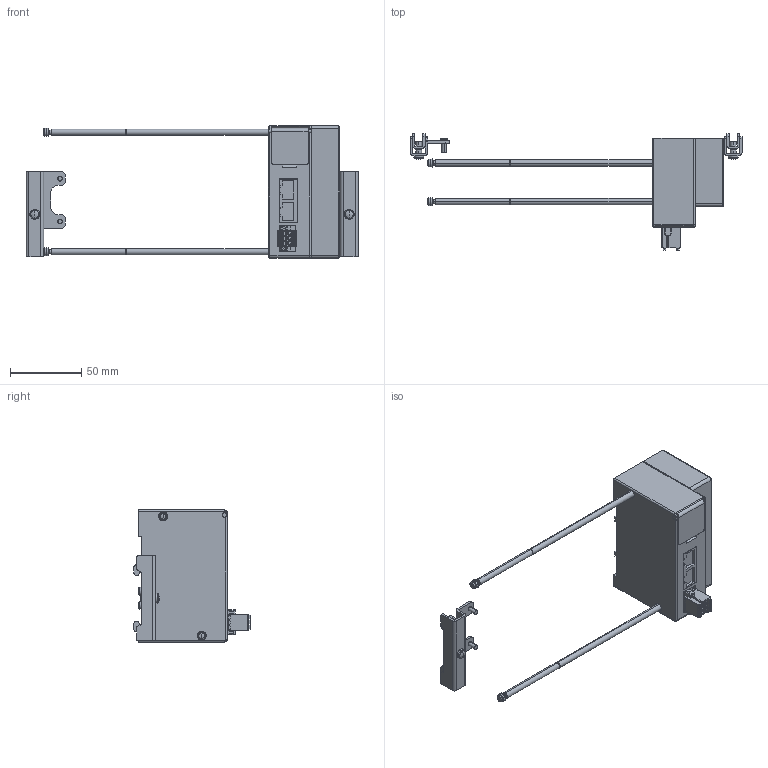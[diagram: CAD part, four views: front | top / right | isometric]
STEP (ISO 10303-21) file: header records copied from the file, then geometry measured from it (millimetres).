
FILE_DESCRIPTION( (''), '2;1');
FILE_NAME ('YS8EK3-7-DN.stp','2022-12-01T14:39:56',(''),(''),'spGate 12.6.6','','');
FILE_SCHEMA (('AUTOMOTIVE_DESIGN'));
Length unit declared in the file: millimetre
Products named in the file (3): Assembly; YS8EK3-7-DN-prt0; YS8EK3-7-DN-prt1
Assembly tree (3 placements, depth 2):
  Assembly
    YS8EK3-7-DN-prt0
    YS8EK3-7-DN-prt1  x2
Bounding box: 233.5 x 82.1 x 93 mm (x, y, z)
Volume: 268592.5 mm3; surface area: 49507.6 mm2
Topology: 3 solids, 3 shells, 983 faces, 2565 edges, 1641 vertices
Faces by surface type: plane 563, cylinder 314, bspline 90, sphere 16
Entity records: 44494 total; most frequent: CARTESIAN_POINT 6157, ORIENTED_EDGE 4408, DIRECTION 4156, COLOUR_RGB 3058, PRESENTATION_STYLE_ASSIGNMENT 3058, STYLED_ITEM 3058, EDGE_CURVE 2204, DRAUGHTING_PRE_DEFINED_CURVE_FONT 2204
